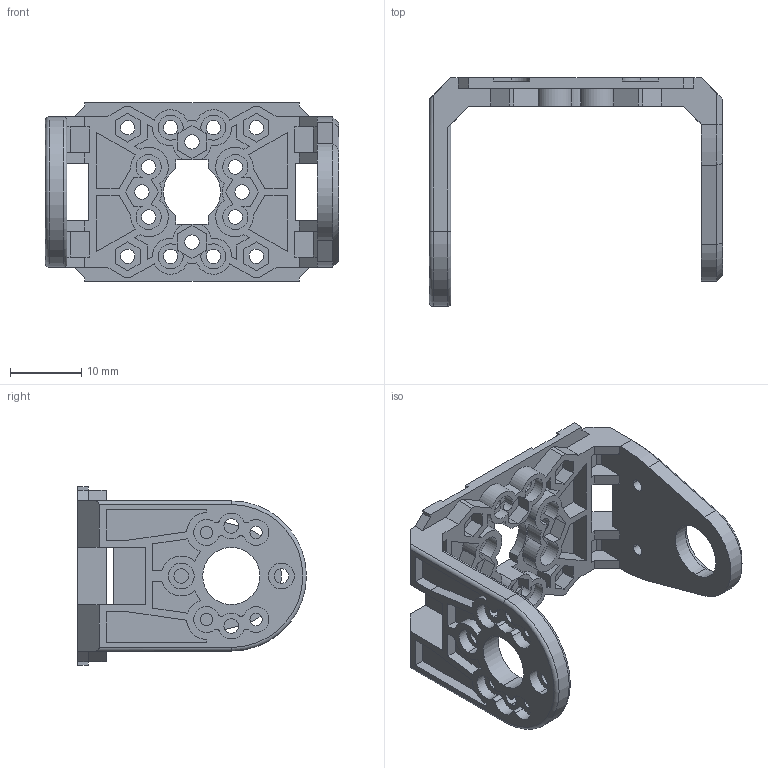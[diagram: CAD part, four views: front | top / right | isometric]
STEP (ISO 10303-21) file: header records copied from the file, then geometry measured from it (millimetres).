
FILE_DESCRIPTION((''),'2;1');
FILE_NAME('ES_U_BRACKET','2011-03-07T',('Administrator'),(''),'PRO/ENGINEER BY PARAMETRIC TECHNOLOGY CORPORATION, 2010330','PRO/ENGINEER BY PARAMETRIC TECHNOLOGY CORPORATION, 2010330','');
FILE_SCHEMA(('CONFIG_CONTROL_DESIGN'));
Length unit declared in the file: millimetre
Products named in the file (1): ES_U_BRACKET
Bounding box: 41 x 32 x 25 mm (x, y, z)
Volume: 3731.2 mm3; surface area: 5861 mm2
Topology: 1 solids, 1 shells, 458 faces, 1263 edges, 826 vertices
Faces by surface type: plane 295, cylinder 146, cone 15, torus 2
Entity records: 14714 total; most frequent: CARTESIAN_POINT 2631, ORIENTED_EDGE 2522, DIRECTION 2468, EDGE_CURVE 1261, VECTOR 934, LINE 934, VERTEX_POINT 826, AXIS2_PLACEMENT_3D 767
